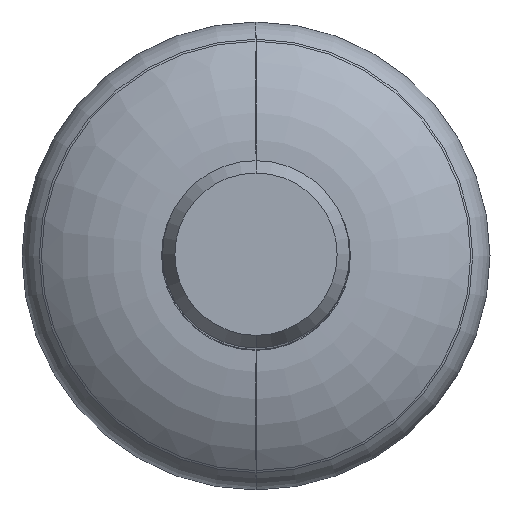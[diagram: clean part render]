
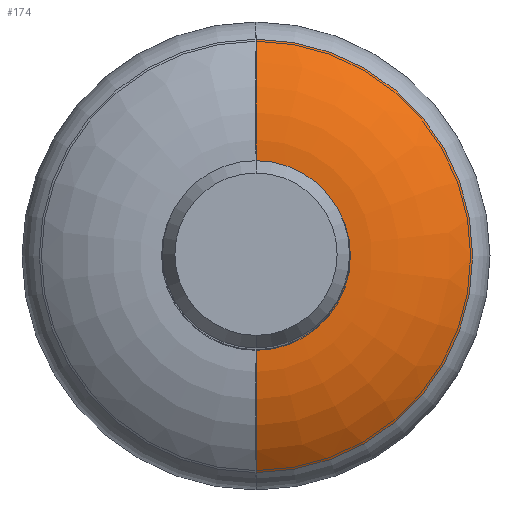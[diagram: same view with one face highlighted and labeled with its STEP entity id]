
A CAD part, top view. The second image highlights one B-rep face of the part: STEP entity #174.
In plain terms, the highlighted toroidal (fillet/blend) face has major radius 15.132 mm and minor radius 30 mm.
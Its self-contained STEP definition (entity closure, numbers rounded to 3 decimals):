
#174 = ADVANCED_FACE ( 'NONE', ( #1395 ), #5157, .T. ) ;
#390 = CARTESIAN_POINT ( 'NONE',  ( 0., 34.719, -9.277 ) ) ;
#495 = AXIS2_PLACEMENT_3D ( 'NONE', #921, #1736, #4464 ) ;
#613 = CARTESIAN_POINT ( 'NONE',  ( 0., 0., -9.277 ) ) ;
#628 = EDGE_LOOP ( 'NONE', ( #2745, #2982, #828, #1393 ) ) ;
#664 = AXIS2_PLACEMENT_3D ( 'NONE', #5031, #4249, #1627 ) ;
#674 = DIRECTION ( 'NONE',  ( 0., 0., -1. ) ) ;
#828 = ORIENTED_EDGE ( 'NONE', *, *, #3377, .F. ) ;
#921 = CARTESIAN_POINT ( 'NONE',  ( 0., -15.132, -32. ) ) ;
#1167 = VERTEX_POINT ( 'NONE', #3049 ) ;
#1393 = ORIENTED_EDGE ( 'NONE', *, *, #4997, .F. ) ;
#1395 = FACE_OUTER_BOUND ( 'NONE', #628, .T. ) ;
#1595 = DIRECTION ( 'NONE',  ( 0., 0., -1. ) ) ;
#1621 = DIRECTION ( 'NONE',  ( 0., 1., 0. ) ) ;
#1627 = DIRECTION ( 'NONE',  ( 0., 1., 0. ) ) ;
#1736 = DIRECTION ( 'NONE',  ( -1., 0., 0. ) ) ;
#1863 = CIRCLE ( 'NONE', #3542, 14.159 ) ;
#1872 = DIRECTION ( 'NONE',  ( -1., 0., 0. ) ) ;
#1968 = EDGE_CURVE ( 'NONE', #3815, #3301, #2520, .T. ) ;
#2307 = DIRECTION ( 'NONE',  ( 0., 1., 0. ) ) ;
#2520 = CIRCLE ( 'NONE', #5004, 30. ) ;
#2745 = ORIENTED_EDGE ( 'NONE', *, *, #1968, .F. ) ;
#2982 = ORIENTED_EDGE ( 'NONE', *, *, #4430, .T. ) ;
#3049 = CARTESIAN_POINT ( 'NONE',  ( 0., -14.159, -2.016 ) ) ;
#3198 = CIRCLE ( 'NONE', #495, 30. ) ;
#3301 = VERTEX_POINT ( 'NONE', #390 ) ;
#3377 = EDGE_CURVE ( 'NONE', #3870, #1167, #3198, .T. ) ;
#3542 = AXIS2_PLACEMENT_3D ( 'NONE', #4758, #1595, #1621 ) ;
#3815 = VERTEX_POINT ( 'NONE', #4243 ) ;
#3870 = VERTEX_POINT ( 'NONE', #4958 ) ;
#4066 = CIRCLE ( 'NONE', #4955, 34.719 ) ;
#4243 = CARTESIAN_POINT ( 'NONE',  ( 0., 14.159, -2.016 ) ) ;
#4249 = DIRECTION ( 'NONE',  ( 0., 0., -1. ) ) ;
#4252 = DIRECTION ( 'NONE',  ( 0., 1., 0. ) ) ;
#4430 = EDGE_CURVE ( 'NONE', #3815, #1167, #1863, .T. ) ;
#4464 = DIRECTION ( 'NONE',  ( 0., -1., 0. ) ) ;
#4758 = CARTESIAN_POINT ( 'NONE',  ( 0., 0., -2.016 ) ) ;
#4955 = AXIS2_PLACEMENT_3D ( 'NONE', #613, #674, #2307 ) ;
#4958 = CARTESIAN_POINT ( 'NONE',  ( 0., -34.719, -9.277 ) ) ;
#4997 = EDGE_CURVE ( 'NONE', #3301, #3870, #4066, .T. ) ;
#5003 = CARTESIAN_POINT ( 'NONE',  ( 0., 15.132, -32. ) ) ;
#5004 = AXIS2_PLACEMENT_3D ( 'NONE', #5003, #1872, #4252 ) ;
#5031 = CARTESIAN_POINT ( 'NONE',  ( 0., 0., -32. ) ) ;
#5157 = TOROIDAL_SURFACE ( 'NONE', #664, 15.132, 30. ) ;
